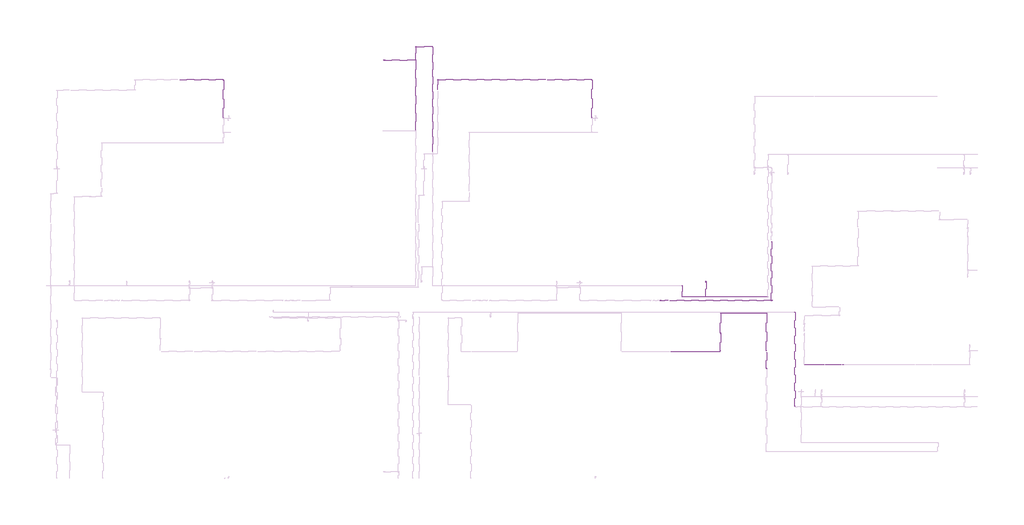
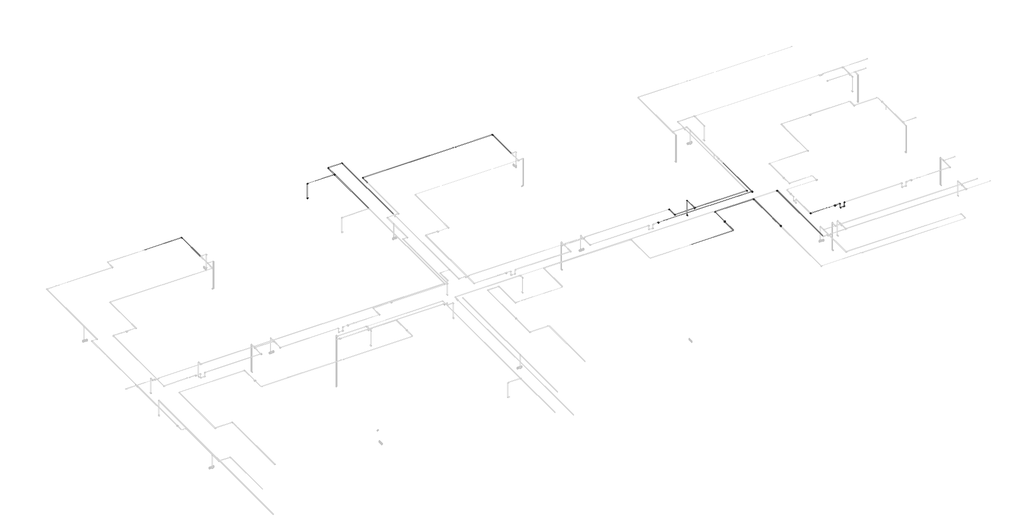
# One storey, part 10 of 13: 36 cable carrier segments, 22 cable carrier fittings, 5 alarms.
"""IFC4 building model written with IfcOpenShell, lengths in millimetres."""

from ifc_helpers import new_model, si_unit, point, frame, frame_2d, origin, place, context, project, spatial, circle_curve, trimmed, segment, composite_curve, outline, extrude, transform, mapped, element, save
from components import alarm_a2247946, cable_carrier_fitting_69f1a801, cable_carrier_fitting_8fd13dfc

model = new_model("IFC4")

# Units and contexts
model_context = context("Model", 3, world=origin())
ifc_project = project(units=[si_unit("LENGTHUNIT", "METRE", prefix="MILLI")], contexts=[model_context])

# Site, building, storey
site = spatial("IfcSite", under=ifc_project)
building = spatial("IfcBuilding", under=site)
storey = spatial("IfcBuildingStorey", under=building, Name="2 этаж", Elevation=3500.0)

# Alarms
placement = place(None, origin())
alarm_shape = alarm_a2247946(model_context)
element("IfcAlarm", 1, ObjectType="RBZ_ИзоляторШлейфа_Рубеж_ИЗ-1_прот.R3(плоскость) : ИЗ-1 прот.R3", at=placement, inside=storey, context=model_context, shape_type="MappedRepresentation", body=[
    mapped(alarm_shape, transform((36.8692806, 5164.6370105, 6997.7), x_axis=(1.0, 0.0, 0.0), y_axis=(0.0, 1.0, 0.0), z_axis=(0.0, 0.0, 1.0))),
])
element("IfcAlarm", 2, ObjectType="RBZ_ИзоляторШлейфа_Рубеж_ИЗ-1_прот.R3(плоскость) : ИЗ-1 прот.R3", at=placement, inside=storey, context=model_context, shape_type="MappedRepresentation", body=[
    mapped(alarm_shape, transform((10217.6759979, 1384.6370105, 6997.7), x_axis=(1.0, 0.0, 0.0), y_axis=(0.0, 1.0, 0.0), z_axis=(0.0, 0.0, 1.0))),
])
element("IfcAlarm", 3, ObjectType="RBZ_ИзоляторШлейфа_Рубеж_ИЗ-1_прот.R3(плоскость) : ИЗ-1 прот.R3", at=placement, inside=storey, context=model_context, shape_type="MappedRepresentation", body=[
    mapped(alarm_shape, transform((3577.6759979, 3230.3870105, 6997.7), x_axis=(1.0, 0.0, 0.0), y_axis=(0.0, 1.0, 0.0), z_axis=(0.0, 0.0, 1.0))),
])
element("IfcAlarm", 4, ObjectType="RBZ_ИзоляторШлейфа_Рубеж_ИЗ-1_прот.R3(плоскость) : ИЗ-1 прот.R3", at=placement, inside=storey, context=model_context, shape_type="MappedRepresentation", body=[
    mapped(alarm_shape, transform((6287.6759979, 1144.6370105, 6997.7), x_axis=(1.0, 0.0, 0.0), y_axis=(0.0, 1.0, 0.0), z_axis=(0.0, 0.0, 1.0))),
])
element("IfcAlarm", 5, ObjectType="RBZ_ИзоляторШлейфа_Рубеж_ИЗ-1_прот.R3(плоскость) : ИЗ-1 прот.R3", at=placement, inside=storey, context=model_context, shape_type="MappedRepresentation", body=[
    mapped(alarm_shape, transform((6587.6759979, 5164.6370105, 6995.4), x_axis=(1.0, 0.0, 0.0), y_axis=(0.0, 1.0, 0.0), z_axis=(0.0, 0.0, 1.0))),
])

# Cable carrier fittings
cable_carrier_fitting_shape = cable_carrier_fitting_69f1a801(model_context)
element("IfcCableCarrierFitting", 6, ObjectType="ADSK_Поворот_Минимальный размер : Неспецифицируемый", at=placement, inside=storey, context=model_context, shape_type="MappedRepresentation", body=[
    mapped(cable_carrier_fitting_shape, transform((-25722.3240021, 18189.6370105, 6986.95), x_axis=(0.0, 1.0, 0.0), y_axis=(-1.0, 0.0, 0.0), z_axis=(0.0, 0.0, 1.0))),
])
element("IfcCableCarrierFitting", 7, ObjectType="ADSK_Поворот_Минимальный размер : Неспецифицируемый", at=placement, inside=storey, context=model_context, shape_type="MappedRepresentation", body=[
    mapped(cable_carrier_fitting_shape, transform((-3999.8077923, 18194.6370105, 6986.95), x_axis=(0.0, 1.0, 0.0), y_axis=(-1.0, 0.0, 0.0), z_axis=(0.0, 0.0, 1.0))),
])
element("IfcCableCarrierFitting", 8, ObjectType="ADSK_Поворот_Минимальный размер : Неспецифицируемый", at=placement, inside=storey, context=model_context, shape_type="MappedRepresentation", body=[
    mapped(cable_carrier_fitting_shape, transform((-13092.3240021, 18194.6370105, 6986.95), x_axis=(-1.0, 0.0, 0.0), y_axis=(0.0, -1.0, 0.0), z_axis=(0.0, 0.0, 1.0))),
])
element("IfcCableCarrierFitting", 9, ObjectType="ADSK_Поворот_Минимальный размер : Неспецифицируемый", at=placement, inside=storey, context=model_context, shape_type="MappedRepresentation", body=[
    mapped(cable_carrier_fitting_shape, transform((6287.6759979, 4424.6370105, 6986.95), x_axis=(0.0, 1.0, 0.0), y_axis=(-1.0, 0.0, 0.0), z_axis=(0.0, 0.0, 1.0))),
])
element("IfcCableCarrierFitting", 10, ObjectType="ADSK_Поворот_Минимальный размер : Неспецифицируемый", at=placement, inside=storey, context=model_context, shape_type="MappedRepresentation", body=[
    mapped(cable_carrier_fitting_shape, transform((10861.3758035, 1384.6370105, 6691.5753772), x_axis=(1.0, 0.0, 0.0), y_axis=(0.0, 0.0, 1.0), z_axis=(0.0, -1.0, 0.0))),
])
element("IfcCableCarrierFitting", 11, ObjectType="ADSK_Поворот_Минимальный размер : Неспецифицируемый", at=placement, inside=storey, context=model_context, shape_type="MappedRepresentation", body=[
    mapped(cable_carrier_fitting_shape, transform((10861.3758035, 1384.6370105, 6990.0), x_axis=(0.0, 0.0, 1.0), y_axis=(1.0, 0.0, 0.0), z_axis=(0.0, 1.0, 0.0))),
])
element("IfcCableCarrierFitting", 12, ObjectType="ADSK_Поворот_Минимальный размер : Неспецифицируемый", at=placement, inside=storey, context=model_context, shape_type="MappedRepresentation", body=[
    mapped(cable_carrier_fitting_shape, transform((10573.9761923, 1384.6370105, 6691.5753772), x_axis=(-1.0, 0.0, 0.0), y_axis=(0.0, 0.0, 1.0), z_axis=(0.0, 1.0, 0.0))),
])
element("IfcCableCarrierFitting", 13, ObjectType="ADSK_Поворот_Минимальный размер : Неспецифицируемый", at=placement, inside=storey, context=model_context, shape_type="MappedRepresentation", body=[
    mapped(cable_carrier_fitting_shape, transform((10573.9761923, 1384.6370105, 6986.95), x_axis=(0.0, 0.0, 1.0), y_axis=(-1.0, 0.0, 0.0), z_axis=(0.0, -1.0, 0.0))),
])
element("IfcCableCarrierFitting", 14, ObjectType="ADSK_Поворот_Минимальный размер : Неспецифицируемый", at=placement, inside=storey, context=model_context, shape_type="MappedRepresentation", body=[
    mapped(cable_carrier_fitting_shape, transform((8507.6759979, 1384.6370105, 6986.95), x_axis=(0.0, -1.0, 0.0), y_axis=(1.0, 0.0, 0.0), z_axis=(0.0, 0.0, 1.0))),
])
element("IfcCableCarrierFitting", 15, ObjectType="ADSK_Поворот_Минимальный размер : Неспецифицируемый", at=placement, inside=storey, context=model_context, shape_type="MappedRepresentation", body=[
    mapped(cable_carrier_fitting_shape, transform((3577.6759979, 4424.6370105, 6986.95), x_axis=(-1.0, 0.0, 0.0), y_axis=(0.0, -1.0, 0.0), z_axis=(0.0, 0.0, 1.0))),
])
element("IfcCableCarrierFitting", 16, ObjectType="ADSK_Поворот_Минимальный размер : Неспецифицируемый", at=placement, inside=storey, context=model_context, shape_type="MappedRepresentation", body=[
    mapped(cable_carrier_fitting_shape, transform((-14382.3240021, 20139.6370105, 6990.0), x_axis=(-1.0, 0.0, 0.0), y_axis=(0.0, -1.0, 0.0), z_axis=(0.0, 0.0, 1.0))),
])
element("IfcCableCarrierFitting", 17, ObjectType="ADSK_Поворот_Минимальный размер : Неспецифицируемый", at=placement, inside=storey, context=model_context, shape_type="MappedRepresentation", body=[
    mapped(cable_carrier_fitting_shape, transform((1317.6759979, 5381.6519004, 6990.0), x_axis=(0.0, -1.0, 0.0), y_axis=(1.0, 0.0, 0.0), z_axis=(0.0, 0.0, 1.0))),
])
element("IfcCableCarrierFitting", 18, ObjectType="ADSK_Поворот_Минимальный размер : Неспецифицируемый", at=placement, inside=storey, context=model_context, shape_type="MappedRepresentation", body=[
    mapped(cable_carrier_fitting_shape, transform((7960.1759979, 4481.6519004, 6990.0), x_axis=(0.0, 1.0, 0.0), y_axis=(-1.0, 0.0, 0.0), z_axis=(0.0, 0.0, 1.0))),
])
element("IfcCableCarrierFitting", 19, ObjectType="ADSK_Поворот_Минимальный размер : Неспецифицируемый", at=placement, inside=storey, context=model_context, shape_type="MappedRepresentation", body=[
    mapped(cable_carrier_fitting_shape, transform((-16289.5238077, 19339.6370105, 5897.4861504), x_axis=(-1.0, 0.0, 0.0), y_axis=(0.0, 0.0, 1.0), z_axis=(0.0, 1.0, 0.0))),
])
element("IfcCableCarrierFitting", 20, ObjectType="ADSK_Поворот_Минимальный размер : Неспецифицируемый", at=placement, inside=storey, context=model_context, shape_type="MappedRepresentation", body=[
    mapped(cable_carrier_fitting_shape, transform((-16289.5238077, 19339.6370105, 6990.0), x_axis=(0.0, 0.0, 1.0), y_axis=(1.0, 0.0, 0.0), z_axis=(0.0, 1.0, 0.0))),
])
element("IfcCableCarrierFitting", 21, ObjectType="ADSK_Поворот_Минимальный размер : Неспецифицируемый", at=placement, inside=storey, context=model_context, shape_type="MappedRepresentation", body=[
    mapped(cable_carrier_fitting_shape, transform((2727.6759979, 6321.8368161, 5897.4861504), x_axis=(0.0, 1.0, 0.0), y_axis=(0.0, 0.0, 1.0), z_axis=(1.0, 0.0, 0.0))),
])
element("IfcCableCarrierFitting", 22, ObjectType="ADSK_Поворот_Минимальный размер : Неспецифицируемый", at=placement, inside=storey, context=model_context, shape_type="MappedRepresentation", body=[
    mapped(cable_carrier_fitting_shape, transform((2727.6759979, 6321.8368161, 6990.0), x_axis=(0.0, 0.0, 1.0), y_axis=(0.0, -1.0, 0.0), z_axis=(1.0, 0.0, 0.0))),
])
element("IfcCableCarrierFitting", 23, ObjectType="ADSK_Поворот_Минимальный размер : Неспецифицируемый", at=placement, inside=storey, context=model_context, shape_type="MappedRepresentation", body=[
    mapped(cable_carrier_fitting_shape, transform((6382.6759979, 5381.6519004, 6990.0), x_axis=(1.0, 0.0, 0.0), y_axis=(0.0, 1.0, 0.0), z_axis=(0.0, 0.0, 1.0))),
])
element("IfcCableCarrierFitting", 24, ObjectType="ADSK_Поворот_Минимальный размер : Неспецифицируемый", at=placement, inside=storey, context=model_context, shape_type="MappedRepresentation", body=[
    mapped(cable_carrier_fitting_shape, transform((1317.6759979, 6037.6221207, 6990.0), x_axis=(0.0, 1.0, 0.0), y_axis=(-1.0, 0.0, 0.0), z_axis=(0.0, 0.0, 1.0))),
])
element("IfcCableCarrierFitting", 25, ObjectType="ADSK_Поворот_Минимальный размер : Неспецифицируемый", at=placement, inside=storey, context=model_context, shape_type="MappedRepresentation", body=[
    mapped(cable_carrier_fitting_shape, transform((-13382.3240021, 20139.6370105, 6990.0), x_axis=(0.0, 1.0, 0.0), y_axis=(-1.0, 0.0, 0.0), z_axis=(0.0, 0.0, 1.0))),
])
cable_carrier_fitting_2_shape = cable_carrier_fitting_8fd13dfc(model_context)
element("IfcCableCarrierFitting", 26, ObjectType="ADSK_Тройник : ПВХ", at=placement, inside=storey, context=model_context, shape_type="MappedRepresentation", body=[
    mapped(cable_carrier_fitting_2_shape, transform((-14382.3240021, 19339.6370105, 6990.0), x_axis=(0.0, -1.0, 0.0), y_axis=(1.0, 0.0, 0.0), z_axis=(0.0, 0.0, 1.0))),
])
element("IfcCableCarrierFitting", 27, ObjectType="ADSK_Тройник : ПВХ", at=placement, inside=storey, context=model_context, shape_type="MappedRepresentation", body=[
    mapped(cable_carrier_fitting_2_shape, transform((2727.6759979, 5381.6519004, 6990.0), x_axis=(-1.0, 0.0, 0.0), y_axis=(0.0, -1.0, 0.0), z_axis=(0.0, 0.0, 1.0))),
])

# Cable carrier segments
element("IfcCableCarrierSegment", 28, ObjectType="Гофрированная труба", at=placement, inside=storey, context=model_context, shape_type="SweptSolid", body=[
    extrude(outline(composite_curve([segment(trimmed(circle_curve(frame_2d((18189.6370105, 6986.95)), 10.0), [point((18199.6370105, 6986.95))], [point((18189.6370105, 6976.95))], False, "CARTESIAN"), True, "CONTINUOUS"), segment(trimmed(circle_curve(frame_2d((18189.6370105, 6986.95)), 10.0), [point((18189.6370105, 6976.95))], [point((18179.6370105, 6986.95))], False, "CARTESIAN"), True, "CONTINUOUS"), segment(trimmed(circle_curve(frame_2d((18189.6370105, 6986.95)), 10.0), [point((18179.6370105, 6986.95))], [point((18189.6370105, 6996.95))], False, "CARTESIAN"), True, "CONTINUOUS"), segment(trimmed(circle_curve(frame_2d((18189.6370105, 6986.95)), 10.0), [point((18189.6370105, 6996.95))], [point((18199.6370105, 6986.95))], False, "CARTESIAN"), True, "CONTINUOUS")], self_intersect=False)), frame((-28305.8240021, 0.0, 0.0), z_axis=(1.0, 0.0, 0.0), x_axis=(0.0, 1.0, 0.0)), (0.0, 0.0, 1.0), 2562.5),
])
element("IfcCableCarrierSegment", 29, ObjectType="Гофрированная труба", at=placement, inside=storey, context=model_context, shape_type="SweptSolid", body=[
    extrude(outline(composite_curve([segment(trimmed(circle_curve(frame_2d((6986.95, -25722.3240021)), 10.0), [point((6986.95, -25732.3240021))], [point((6976.95, -25722.3240021))], False, "CARTESIAN"), True, "CONTINUOUS"), segment(trimmed(circle_curve(frame_2d((6986.95, -25722.3240021)), 10.0), [point((6976.95, -25722.3240021))], [point((6986.95, -25712.3240021))], False, "CARTESIAN"), True, "CONTINUOUS"), segment(trimmed(circle_curve(frame_2d((6986.95, -25722.3240021)), 10.0), [point((6986.95, -25712.3240021))], [point((6996.95, -25722.3240021))], False, "CARTESIAN"), True, "CONTINUOUS"), segment(trimmed(circle_curve(frame_2d((6986.95, -25722.3240021)), 10.0), [point((6996.95, -25722.3240021))], [point((6986.95, -25732.3240021))], False, "CARTESIAN"), True, "CONTINUOUS")], self_intersect=False)), frame((0.0, 15947.1370105, 0.0), z_axis=(0.0, 1.0, 0.0), x_axis=(0.0, 0.0, 1.0)), (0.0, 0.0, 1.0), 2221.5),
])
element("IfcCableCarrierSegment", 30, ObjectType="Гофрированная труба", at=placement, inside=storey, context=model_context, shape_type="SweptSolid", body=[
    extrude(outline(composite_curve([segment(trimmed(circle_curve(frame_2d((6986.95, -3999.8077923)), 10.0), [point((6986.95, -3989.8077923))], [point((6996.95, -3999.8077923))], False, "CARTESIAN"), True, "CONTINUOUS"), segment(trimmed(circle_curve(frame_2d((6986.95, -3999.8077923)), 10.0), [point((6996.95, -3999.8077923))], [point((6986.95, -4009.8077923))], False, "CARTESIAN"), True, "CONTINUOUS"), segment(trimmed(circle_curve(frame_2d((6986.95, -3999.8077923)), 10.0), [point((6986.95, -4009.8077923))], [point((6976.95, -3999.8077923))], False, "CARTESIAN"), True, "CONTINUOUS"), segment(trimmed(circle_curve(frame_2d((6986.95, -3999.8077923)), 10.0), [point((6976.95, -3999.8077923))], [point((6986.95, -3989.8077923))], False, "CARTESIAN"), True, "CONTINUOUS")], self_intersect=False)), frame((0.0, 15952.1370105, 0.0), z_axis=(0.0, 1.0, 0.0), x_axis=(0.0, 0.0, 1.0)), (0.0, 0.0, 1.0), 2221.5),
])
element("IfcCableCarrierSegment", 31, ObjectType="Гофрированная труба", at=placement, inside=storey, context=model_context, shape_type="SweptSolid", body=[
    extrude(outline(composite_curve([segment(trimmed(circle_curve(frame_2d((18194.6370105, 6986.95)), 10.0), [point((18204.6370105, 6986.95))], [point((18194.6370105, 6976.95))], False, "CARTESIAN"), True, "CONTINUOUS"), segment(trimmed(circle_curve(frame_2d((18194.6370105, 6986.95)), 10.0), [point((18194.6370105, 6976.95))], [point((18184.6370105, 6986.95))], False, "CARTESIAN"), True, "CONTINUOUS"), segment(trimmed(circle_curve(frame_2d((18194.6370105, 6986.95)), 10.0), [point((18184.6370105, 6986.95))], [point((18194.6370105, 6996.95))], False, "CARTESIAN"), True, "CONTINUOUS"), segment(trimmed(circle_curve(frame_2d((18194.6370105, 6986.95)), 10.0), [point((18194.6370105, 6996.95))], [point((18204.6370105, 6986.95))], False, "CARTESIAN"), True, "CONTINUOUS")], self_intersect=False)), frame((-6625.8240021, 0.0, 0.0), z_axis=(1.0, 0.0, 0.0), x_axis=(0.0, 1.0, 0.0)), (0.0, 0.0, 1.0), 2605.0162098),
])
element("IfcCableCarrierSegment", 32, ObjectType="Гофрированная труба", at=placement, inside=storey, context=model_context, shape_type="SweptSolid", body=[
    extrude(outline(composite_curve([segment(trimmed(circle_curve(frame_2d((18194.6370105, 6986.95)), 10.0), [point((18184.6370105, 6986.95))], [point((18194.6370105, 6996.95))], False, "CARTESIAN"), True, "CONTINUOUS"), segment(trimmed(circle_curve(frame_2d((18194.6370105, 6986.95)), 10.0), [point((18194.6370105, 6996.95))], [point((18204.6370105, 6986.95))], False, "CARTESIAN"), True, "CONTINUOUS"), segment(trimmed(circle_curve(frame_2d((18194.6370105, 6986.95)), 10.0), [point((18204.6370105, 6986.95))], [point((18194.6370105, 6976.95))], False, "CARTESIAN"), True, "CONTINUOUS"), segment(trimmed(circle_curve(frame_2d((18194.6370105, 6986.95)), 10.0), [point((18194.6370105, 6976.95))], [point((18184.6370105, 6986.95))], False, "CARTESIAN"), True, "CONTINUOUS")], self_intersect=False)), frame((-13071.3240021, 0.0, 0.0), z_axis=(1.0, 0.0, 0.0), x_axis=(0.0, 1.0, 0.0)), (0.0, 0.0, 1.0), 6352.5),
])
element("IfcCableCarrierSegment", 33, ObjectType="Гофрированная труба", at=placement, inside=storey, context=model_context, shape_type="SweptSolid", body=[
    extrude(outline(composite_curve([segment(trimmed(circle_curve(frame_2d((6986.95, -13092.3240021)), 10.0), [point((6986.95, -13082.3240021))], [point((6996.95, -13092.3240021))], False, "CARTESIAN"), True, "CONTINUOUS"), segment(trimmed(circle_curve(frame_2d((6986.95, -13092.3240021)), 10.0), [point((6996.95, -13092.3240021))], [point((6986.95, -13102.3240021))], False, "CARTESIAN"), True, "CONTINUOUS"), segment(trimmed(circle_curve(frame_2d((6986.95, -13092.3240021)), 10.0), [point((6986.95, -13102.3240021))], [point((6976.95, -13092.3240021))], False, "CARTESIAN"), True, "CONTINUOUS"), segment(trimmed(circle_curve(frame_2d((6986.95, -13092.3240021)), 10.0), [point((6976.95, -13092.3240021))], [point((6986.95, -13082.3240021))], False, "CARTESIAN"), True, "CONTINUOUS")], self_intersect=False)), frame((0.0, 17616.1370105, 0.0), z_axis=(0.0, 1.0, 0.0), x_axis=(0.0, 0.0, 1.0)), (0.0, 0.0, 1.0), 557.5),
])
element("IfcCableCarrierSegment", 34, ObjectType="Гофрированная труба", at=placement, inside=storey, context=model_context, shape_type="SweptSolid", body=[
    extrude(outline(composite_curve([segment(trimmed(circle_curve(frame_2d((2144.6370105, 6986.95)), 10.0), [point((2154.6370105, 6986.95))], [point((2144.6370105, 6976.95))], False, "CARTESIAN"), True, "CONTINUOUS"), segment(trimmed(circle_curve(frame_2d((2144.6370105, 6986.95)), 10.0), [point((2144.6370105, 6976.95))], [point((2134.6370105, 6986.95))], False, "CARTESIAN"), True, "CONTINUOUS"), segment(trimmed(circle_curve(frame_2d((2144.6370105, 6986.95)), 10.0), [point((2134.6370105, 6986.95))], [point((2144.6370105, 6996.95))], False, "CARTESIAN"), True, "CONTINUOUS"), segment(trimmed(circle_curve(frame_2d((2144.6370105, 6986.95)), 10.0), [point((2144.6370105, 6996.95))], [point((2154.6370105, 6986.95))], False, "CARTESIAN"), True, "CONTINUOUS")], self_intersect=False)), frame((649.1759979, 0.0, 0.0), z_axis=(1.0, 0.0, 0.0), x_axis=(0.0, 1.0, 0.0)), (0.0, 0.0, 1.0), 2882.0),
])
element("IfcCableCarrierSegment", 35, ObjectType="Гофрированная труба", at=placement, inside=storey, context=model_context, shape_type="SweptSolid", body=[
    extrude(outline(composite_curve([segment(trimmed(circle_curve(frame_2d((6986.95, 3577.6759979)), 10.0), [point((6986.95, 3567.6759979))], [point((6976.95, 3577.6759979))], False, "CARTESIAN"), True, "CONTINUOUS"), segment(trimmed(circle_curve(frame_2d((6986.95, 3577.6759979)), 10.0), [point((6976.95, 3577.6759979))], [point((6986.95, 3587.6759979))], False, "CARTESIAN"), True, "CONTINUOUS"), segment(trimmed(circle_curve(frame_2d((6986.95, 3577.6759979)), 10.0), [point((6986.95, 3587.6759979))], [point((6996.95, 3577.6759979))], False, "CARTESIAN"), True, "CONTINUOUS"), segment(trimmed(circle_curve(frame_2d((6986.95, 3577.6759979)), 10.0), [point((6996.95, 3577.6759979))], [point((6986.95, 3567.6759979))], False, "CARTESIAN"), True, "CONTINUOUS")], self_intersect=False)), frame((0.0, 3256.3870105, 0.0), z_axis=(0.0, 1.0, 0.0), x_axis=(0.0, 0.0, 1.0)), (0.0, 0.0, 1.0), 1147.25),
])
element("IfcCableCarrierSegment", 36, ObjectType="Гофрированная труба", at=placement, inside=storey, context=model_context, shape_type="SweptSolid", body=[
    extrude(outline(composite_curve([segment(trimmed(circle_curve(frame_2d((6986.95, 6287.6759979)), 10.0), [point((6986.95, 6297.6759979))], [point((6996.95, 6287.6759979))], False, "CARTESIAN"), True, "CONTINUOUS"), segment(trimmed(circle_curve(frame_2d((6986.95, 6287.6759979)), 10.0), [point((6996.95, 6287.6759979))], [point((6986.95, 6277.6759979))], False, "CARTESIAN"), True, "CONTINUOUS"), segment(trimmed(circle_curve(frame_2d((6986.95, 6287.6759979)), 10.0), [point((6986.95, 6277.6759979))], [point((6976.95, 6287.6759979))], False, "CARTESIAN"), True, "CONTINUOUS"), segment(trimmed(circle_curve(frame_2d((6986.95, 6287.6759979)), 10.0), [point((6976.95, 6287.6759979))], [point((6986.95, 6297.6759979))], False, "CARTESIAN"), True, "CONTINUOUS")], self_intersect=False)), frame((0.0, 2191.1370105, 0.0), z_axis=(0.0, 1.0, 0.0), x_axis=(0.0, 0.0, 1.0)), (0.0, 0.0, 1.0), 2212.5),
])
element("IfcCableCarrierSegment", 37, ObjectType="Гофрированная труба", at=placement, inside=storey, context=model_context, shape_type="SweptSolid", body=[
    extrude(outline(composite_curve([segment(trimmed(circle_curve(frame_2d((4424.6370105, 6986.95)), 10.0), [point((4414.6370105, 6986.95))], [point((4424.6370105, 6996.95))], False, "CARTESIAN"), True, "CONTINUOUS"), segment(trimmed(circle_curve(frame_2d((4424.6370105, 6986.95)), 10.0), [point((4424.6370105, 6996.95))], [point((4434.6370105, 6986.95))], False, "CARTESIAN"), True, "CONTINUOUS"), segment(trimmed(circle_curve(frame_2d((4424.6370105, 6986.95)), 10.0), [point((4434.6370105, 6986.95))], [point((4424.6370105, 6976.95))], False, "CARTESIAN"), True, "CONTINUOUS"), segment(trimmed(circle_curve(frame_2d((4424.6370105, 6986.95)), 10.0), [point((4424.6370105, 6976.95))], [point((4414.6370105, 6986.95))], False, "CARTESIAN"), True, "CONTINUOUS")], self_intersect=False)), frame((3598.6759979, 0.0, 0.0), z_axis=(1.0, 0.0, 0.0), x_axis=(0.0, 1.0, 0.0)), (0.0, 0.0, 1.0), 2668.0),
])
element("IfcCableCarrierSegment", 38, ObjectType="Гофрированная труба", at=placement, inside=storey, context=model_context, shape_type="SweptSolid", body=[
    extrude(outline(composite_curve([segment(trimmed(circle_curve(frame_2d((5164.6370105, 6986.95)), 10.0), [point((5174.6370105, 6986.95))], [point((5164.6370105, 6976.95))], False, "CARTESIAN"), True, "CONTINUOUS"), segment(trimmed(circle_curve(frame_2d((5164.6370105, 6986.95)), 10.0), [point((5164.6370105, 6976.95))], [point((5154.6370105, 6986.95))], False, "CARTESIAN"), True, "CONTINUOUS"), segment(trimmed(circle_curve(frame_2d((5164.6370105, 6986.95)), 10.0), [point((5154.6370105, 6986.95))], [point((5164.6370105, 6996.95))], False, "CARTESIAN"), True, "CONTINUOUS"), segment(trimmed(circle_curve(frame_2d((5164.6370105, 6986.95)), 10.0), [point((5164.6370105, 6996.95))], [point((5174.6370105, 6986.95))], False, "CARTESIAN"), True, "CONTINUOUS")], self_intersect=False)), frame((62.8692806, 0.0, 0.0), z_axis=(1.0, 0.0, 0.0), x_axis=(0.0, 1.0, 0.0)), (0.0, 0.0, 1.0), 426.8675652),
])
element("IfcCableCarrierSegment", 39, ObjectType="Гофрированная труба", at=placement, inside=storey, context=model_context, shape_type="SweptSolid", body=[
    extrude(outline(composite_curve([segment(trimmed(circle_curve(frame_2d((0.0, -10.0)), 10.0), [point((-10.0, -10.0))], [point((0.0, 0.0))], False, "CARTESIAN"), True, "CONTINUOUS"), segment(trimmed(circle_curve(frame_2d((0.0, -10.0)), 10.0), [point((0.0, 0.0))], [point((10.0, -10.0))], False, "CARTESIAN"), True, "CONTINUOUS"), segment(trimmed(circle_curve(frame_2d((0.0, -10.0)), 10.0), [point((10.0, -10.0))], [point((0.0, -20.0000001))], False, "CARTESIAN"), True, "CONTINUOUS"), segment(trimmed(circle_curve(frame_2d((0.0, -10.0)), 10.0), [point((0.0, -20.0000001))], [point((-10.0, -10.0))], False, "CARTESIAN"), True, "CONTINUOUS")], self_intersect=False)), frame((6561.6721511, 5164.6370105, 6974.6500007), z_axis=(-0.9999999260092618, 0.0, 0.000384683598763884), x_axis=(0.0, 1.0, 0.0)), (0.0, 0.0, 1.0), 5978.9395945),
])
element("IfcCableCarrierSegment", 40, ObjectType="Гофрированная труба", at=placement, inside=storey, context=model_context, shape_type="SweptSolid", body=[
    extrude(outline(composite_curve([segment(trimmed(circle_curve(frame_2d((1384.6370105, 6691.5753772)), 10.0), [point((1374.6370105, 6691.5753772))], [point((1384.6370105, 6701.5753772))], False, "CARTESIAN"), True, "CONTINUOUS"), segment(trimmed(circle_curve(frame_2d((1384.6370105, 6691.5753772)), 10.0), [point((1384.6370105, 6701.5753772))], [point((1394.6370105, 6691.5753772))], False, "CARTESIAN"), True, "CONTINUOUS"), segment(trimmed(circle_curve(frame_2d((1384.6370105, 6691.5753772)), 10.0), [point((1394.6370105, 6691.5753772))], [point((1384.6370105, 6681.5753772))], False, "CARTESIAN"), True, "CONTINUOUS"), segment(trimmed(circle_curve(frame_2d((1384.6370105, 6691.5753772)), 10.0), [point((1384.6370105, 6681.5753772))], [point((1374.6370105, 6691.5753772))], False, "CARTESIAN"), True, "CONTINUOUS")], self_intersect=False)), frame((10764.1759979, 0.0, 0.0), z_axis=(1.0, 0.0, 0.0), x_axis=(0.0, 1.0, 0.0)), (0.0, 0.0, 1.0), 76.1998056),
])
element("IfcCableCarrierSegment", 41, ObjectType="Гофрированная труба", at=placement, inside=storey, context=model_context, shape_type="SweptSolid", body=[
    extrude(outline(composite_curve([segment(trimmed(circle_curve(frame_2d((10861.3758035, 1384.6370105)), 10.0), [point((10851.3758035, 1384.6370105))], [point((10861.3758035, 1394.6370105))], False, "CARTESIAN"), True, "CONTINUOUS"), segment(trimmed(circle_curve(frame_2d((10861.3758035, 1384.6370105)), 10.0), [point((10861.3758035, 1394.6370105))], [point((10871.3758035, 1384.6370105))], False, "CARTESIAN"), True, "CONTINUOUS"), segment(trimmed(circle_curve(frame_2d((10861.3758035, 1384.6370105)), 10.0), [point((10871.3758035, 1384.6370105))], [point((10861.3758035, 1374.6370105))], False, "CARTESIAN"), True, "CONTINUOUS"), segment(trimmed(circle_curve(frame_2d((10861.3758035, 1384.6370105)), 10.0), [point((10861.3758035, 1374.6370105))], [point((10851.3758035, 1384.6370105))], False, "CARTESIAN"), True, "CONTINUOUS")], self_intersect=False)), frame((0.0, 0.0, 6712.5753772), z_axis=(0.0, 0.0, 1.0), x_axis=(1.0, 0.0, 0.0)), (0.0, 0.0, 1.0), 256.4246228),
])
element("IfcCableCarrierSegment", 42, ObjectType="Гофрированная труба", at=placement, inside=storey, context=model_context, shape_type="SweptSolid", body=[
    extrude(outline(composite_curve([segment(trimmed(circle_curve(frame_2d((1384.6370105, 6986.95)), 10.0), [point((1374.6370105, 6986.95))], [point((1384.6370105, 6996.95))], False, "CARTESIAN"), True, "CONTINUOUS"), segment(trimmed(circle_curve(frame_2d((1384.6370105, 6986.95)), 10.0), [point((1384.6370105, 6996.95))], [point((1394.6370105, 6986.95))], False, "CARTESIAN"), True, "CONTINUOUS"), segment(trimmed(circle_curve(frame_2d((1384.6370105, 6986.95)), 10.0), [point((1394.6370105, 6986.95))], [point((1384.6370105, 6976.95))], False, "CARTESIAN"), True, "CONTINUOUS"), segment(trimmed(circle_curve(frame_2d((1384.6370105, 6986.95)), 10.0), [point((1384.6370105, 6976.95))], [point((1374.6370105, 6986.95))], False, "CARTESIAN"), True, "CONTINUOUS")], self_intersect=False)), frame((10243.6759979, 0.0, 0.0), z_axis=(1.0, 0.0, 0.0), x_axis=(0.0, 1.0, 0.0)), (0.0, 0.0, 1.0), 309.3001944),
])
element("IfcCableCarrierSegment", 43, ObjectType="Гофрированная труба", at=placement, inside=storey, context=model_context, shape_type="SweptSolid", body=[
    extrude(outline(composite_curve([segment(trimmed(circle_curve(frame_2d((1384.6370105, 6691.5753772)), 10.0), [point((1394.6370105, 6691.5753772))], [point((1384.6370105, 6681.5753772))], False, "CARTESIAN"), True, "CONTINUOUS"), segment(trimmed(circle_curve(frame_2d((1384.6370105, 6691.5753772)), 10.0), [point((1384.6370105, 6681.5753772))], [point((1374.6370105, 6691.5753772))], False, "CARTESIAN"), True, "CONTINUOUS"), segment(trimmed(circle_curve(frame_2d((1384.6370105, 6691.5753772)), 10.0), [point((1374.6370105, 6691.5753772))], [point((1384.6370105, 6701.5753772))], False, "CARTESIAN"), True, "CONTINUOUS"), segment(trimmed(circle_curve(frame_2d((1384.6370105, 6691.5753772)), 10.0), [point((1384.6370105, 6701.5753772))], [point((1394.6370105, 6691.5753772))], False, "CARTESIAN"), True, "CONTINUOUS")], self_intersect=False)), frame((10594.9761923, 0.0, 0.0), z_axis=(1.0, 0.0, 0.0), x_axis=(0.0, 1.0, 0.0)), (0.0, 0.0, 1.0), 76.1998056),
])
element("IfcCableCarrierSegment", 44, ObjectType="Гофрированная труба", at=placement, inside=storey, context=model_context, shape_type="SweptSolid", body=[
    extrude(outline(composite_curve([segment(trimmed(circle_curve(frame_2d((10573.9761923, 1384.6370105)), 10.0), [point((10563.9761923, 1384.6370105))], [point((10573.9761923, 1394.6370105))], False, "CARTESIAN"), True, "CONTINUOUS"), segment(trimmed(circle_curve(frame_2d((10573.9761923, 1384.6370105)), 10.0), [point((10573.9761923, 1394.6370105))], [point((10583.9761923, 1384.6370105))], False, "CARTESIAN"), True, "CONTINUOUS"), segment(trimmed(circle_curve(frame_2d((10573.9761923, 1384.6370105)), 10.0), [point((10583.9761923, 1384.6370105))], [point((10573.9761923, 1374.6370105))], False, "CARTESIAN"), True, "CONTINUOUS"), segment(trimmed(circle_curve(frame_2d((10573.9761923, 1384.6370105)), 10.0), [point((10573.9761923, 1374.6370105))], [point((10563.9761923, 1384.6370105))], False, "CARTESIAN"), True, "CONTINUOUS")], self_intersect=False)), frame((0.0, 0.0, 6712.5753772), z_axis=(0.0, 0.0, 1.0), x_axis=(1.0, 0.0, 0.0)), (0.0, 0.0, 1.0), 253.3746228),
])
element("IfcCableCarrierSegment", 45, ObjectType="Гофрированная труба", at=placement, inside=storey, context=model_context, shape_type="SweptSolid", body=[
    extrude(outline(composite_curve([segment(trimmed(circle_curve(frame_2d((1384.6370105, 6986.95)), 10.0), [point((1374.6370105, 6986.95))], [point((1384.6370105, 6996.95))], False, "CARTESIAN"), True, "CONTINUOUS"), segment(trimmed(circle_curve(frame_2d((1384.6370105, 6986.95)), 10.0), [point((1384.6370105, 6996.95))], [point((1394.6370105, 6986.95))], False, "CARTESIAN"), True, "CONTINUOUS"), segment(trimmed(circle_curve(frame_2d((1384.6370105, 6986.95)), 10.0), [point((1394.6370105, 6986.95))], [point((1384.6370105, 6976.95))], False, "CARTESIAN"), True, "CONTINUOUS"), segment(trimmed(circle_curve(frame_2d((1384.6370105, 6986.95)), 10.0), [point((1384.6370105, 6976.95))], [point((1374.6370105, 6986.95))], False, "CARTESIAN"), True, "CONTINUOUS")], self_intersect=False)), frame((9764.1759979, 0.0, 0.0), z_axis=(1.0, 0.0, 0.0), x_axis=(0.0, 1.0, 0.0)), (0.0, 0.0, 1.0), 427.5),
])
element("IfcCableCarrierSegment", 46, ObjectType="Гофрированная труба", at=placement, inside=storey, context=model_context, shape_type="SweptSolid", body=[
    extrude(outline(composite_curve([segment(trimmed(circle_curve(frame_2d((1384.6370105, 6986.95)), 10.0), [point((1394.6370105, 6986.95))], [point((1384.6370105, 6976.95))], False, "CARTESIAN"), True, "CONTINUOUS"), segment(trimmed(circle_curve(frame_2d((1384.6370105, 6986.95)), 10.0), [point((1384.6370105, 6976.95))], [point((1374.6370105, 6986.95))], False, "CARTESIAN"), True, "CONTINUOUS"), segment(trimmed(circle_curve(frame_2d((1384.6370105, 6986.95)), 10.0), [point((1374.6370105, 6986.95))], [point((1384.6370105, 6996.95))], False, "CARTESIAN"), True, "CONTINUOUS"), segment(trimmed(circle_curve(frame_2d((1384.6370105, 6986.95)), 10.0), [point((1384.6370105, 6996.95))], [point((1394.6370105, 6986.95))], False, "CARTESIAN"), True, "CONTINUOUS")], self_intersect=False)), frame((8528.6759979, 0.0, 0.0), z_axis=(1.0, 0.0, 0.0), x_axis=(0.0, 1.0, 0.0)), (0.0, 0.0, 1.0), 1142.5),
])
element("IfcCableCarrierSegment", 47, ObjectType="Гофрированная труба", at=placement, inside=storey, context=model_context, shape_type="SweptSolid", body=[
    extrude(outline(composite_curve([segment(trimmed(circle_curve(frame_2d((0.0, -10.0)), 10.0), [point((0.0, 0.0))], [point((10.0, -10.0))], False, "CARTESIAN"), True, "CONTINUOUS"), segment(trimmed(circle_curve(frame_2d((0.0, -10.0)), 10.0), [point((10.0, -10.0))], [point((0.0, -20.0))], False, "CARTESIAN"), True, "CONTINUOUS"), segment(trimmed(circle_curve(frame_2d((0.0, -10.0)), 10.0), [point((0.0, -20.0))], [point((-10.0, -10.0))], False, "CARTESIAN"), True, "CONTINUOUS"), segment(trimmed(circle_curve(frame_2d((0.0, -10.0)), 10.0), [point((-10.0, -10.0))], [point((0.0, 0.0))], False, "CARTESIAN"), True, "CONTINUOUS")], self_intersect=False)), frame((6577.6759979, 5190.6370105, 6984.65), z_axis=(0.0, 0.9999997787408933, 0.0006652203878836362), x_axis=(0.0, 0.0006652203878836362, -0.9999997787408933)), (0.0, 0.0, 1.0), 3457.500765),
])
element("IfcCableCarrierSegment", 48, ObjectType="Гофрированная труба", at=placement, inside=storey, context=model_context, shape_type="SweptSolid", body=[
    extrude(outline(composite_curve([segment(trimmed(circle_curve(frame_2d((6986.95, 3577.6759979)), 10.0), [point((6986.95, 3587.6759979))], [point((6996.95, 3577.6759979))], False, "CARTESIAN"), True, "CONTINUOUS"), segment(trimmed(circle_curve(frame_2d((6986.95, 3577.6759979)), 10.0), [point((6996.95, 3577.6759979))], [point((6986.95, 3567.6759979))], False, "CARTESIAN"), True, "CONTINUOUS"), segment(trimmed(circle_curve(frame_2d((6986.95, 3577.6759979)), 10.0), [point((6986.95, 3567.6759979))], [point((6976.95, 3577.6759979))], False, "CARTESIAN"), True, "CONTINUOUS"), segment(trimmed(circle_curve(frame_2d((6986.95, 3577.6759979)), 10.0), [point((6976.95, 3577.6759979))], [point((6986.95, 3587.6759979))], False, "CARTESIAN"), True, "CONTINUOUS")], self_intersect=False)), frame((0.0, 2191.1370105, 0.0), z_axis=(0.0, 1.0, 0.0), x_axis=(0.0, 0.0, 1.0)), (0.0, 0.0, 1.0), 1013.25),
])
element("IfcCableCarrierSegment", 49, ObjectType="Гофрированная труба", at=placement, inside=storey, context=model_context, shape_type="SweptSolid", body=[
    extrude(outline(composite_curve([segment(trimmed(circle_curve(frame_2d((6986.95, 6287.6759979)), 10.0), [point((6986.95, 6277.6759979))], [point((6976.95, 6287.6759979))], False, "CARTESIAN"), True, "CONTINUOUS"), segment(trimmed(circle_curve(frame_2d((6986.95, 6287.6759979)), 10.0), [point((6976.95, 6287.6759979))], [point((6986.95, 6297.6759979))], False, "CARTESIAN"), True, "CONTINUOUS"), segment(trimmed(circle_curve(frame_2d((6986.95, 6287.6759979)), 10.0), [point((6986.95, 6297.6759979))], [point((6996.95, 6287.6759979))], False, "CARTESIAN"), True, "CONTINUOUS"), segment(trimmed(circle_curve(frame_2d((6986.95, 6287.6759979)), 10.0), [point((6996.95, 6287.6759979))], [point((6986.95, 6277.6759979))], False, "CARTESIAN"), True, "CONTINUOUS")], self_intersect=False)), frame((0.0, 1170.6370105, 0.0), z_axis=(0.0, 1.0, 0.0), x_axis=(0.0, 0.0, 1.0)), (0.0, 0.0, 1.0), 927.5),
])
element("IfcCableCarrierSegment", 50, ObjectType="Гофрированная труба", at=placement, inside=storey, context=model_context, shape_type="SweptSolid", body=[
    extrude(outline(composite_curve([segment(trimmed(circle_curve(frame_2d((6990.0, -14382.3240021)), 10.0), [point((6990.0, -14372.3240021))], [point((7000.0, -14382.3240021))], False, "CARTESIAN"), True, "CONTINUOUS"), segment(trimmed(circle_curve(frame_2d((6990.0, -14382.3240021)), 10.0), [point((7000.0, -14382.3240021))], [point((6990.0, -14392.3240021))], False, "CARTESIAN"), True, "CONTINUOUS"), segment(trimmed(circle_curve(frame_2d((6990.0, -14382.3240021)), 10.0), [point((6990.0, -14392.3240021))], [point((6980.0, -14382.3240021))], False, "CARTESIAN"), True, "CONTINUOUS"), segment(trimmed(circle_curve(frame_2d((6990.0, -14382.3240021)), 10.0), [point((6980.0, -14382.3240021))], [point((6990.0, -14372.3240021))], False, "CARTESIAN"), True, "CONTINUOUS")], self_intersect=False)), frame((0.0, 19369.6370105, 0.0), z_axis=(0.0, 1.0, 0.0), x_axis=(0.0, 0.0, 1.0)), (0.0, 0.0, 1.0), 749.0),
])
element("IfcCableCarrierSegment", 51, ObjectType="Гофрированная труба", at=placement, inside=storey, context=model_context, shape_type="SweptSolid", body=[
    extrude(outline(composite_curve([segment(trimmed(circle_curve(frame_2d((20139.6370105, 6990.0)), 10.0), [point((20129.6370105, 6990.0))], [point((20139.6370105, 7000.0))], False, "CARTESIAN"), True, "CONTINUOUS"), segment(trimmed(circle_curve(frame_2d((20139.6370105, 6990.0)), 10.0), [point((20139.6370105, 7000.0))], [point((20149.6370105, 6990.0))], False, "CARTESIAN"), True, "CONTINUOUS"), segment(trimmed(circle_curve(frame_2d((20139.6370105, 6990.0)), 10.0), [point((20149.6370105, 6990.0))], [point((20139.6370105, 6980.0))], False, "CARTESIAN"), True, "CONTINUOUS"), segment(trimmed(circle_curve(frame_2d((20139.6370105, 6990.0)), 10.0), [point((20139.6370105, 6980.0))], [point((20129.6370105, 6990.0))], False, "CARTESIAN"), True, "CONTINUOUS")], self_intersect=False)), frame((-14361.3240021, 0.0, 0.0), z_axis=(1.0, 0.0, 0.0), x_axis=(0.0, 1.0, 0.0)), (0.0, 0.0, 1.0), 958.0),
])
element("IfcCableCarrierSegment", 52, ObjectType="Гофрированная труба", at=placement, inside=storey, context=model_context, shape_type="SweptSolid", body=[
    extrude(outline(composite_curve([segment(trimmed(circle_curve(frame_2d((6990.0, 1317.6759979)), 10.0), [point((6990.0, 1307.6759979))], [point((6980.0, 1317.6759979))], False, "CARTESIAN"), True, "CONTINUOUS"), segment(trimmed(circle_curve(frame_2d((6990.0, 1317.6759979)), 10.0), [point((6980.0, 1317.6759979))], [point((6990.0, 1327.6759979))], False, "CARTESIAN"), True, "CONTINUOUS"), segment(trimmed(circle_curve(frame_2d((6990.0, 1317.6759979)), 10.0), [point((6990.0, 1327.6759979))], [point((7000.0, 1317.6759979))], False, "CARTESIAN"), True, "CONTINUOUS"), segment(trimmed(circle_curve(frame_2d((6990.0, 1317.6759979)), 10.0), [point((7000.0, 1317.6759979))], [point((6990.0, 1307.6759979))], False, "CARTESIAN"), True, "CONTINUOUS")], self_intersect=False)), frame((0.0, 5402.6519004, 0.0), z_axis=(0.0, 1.0, 0.0), x_axis=(0.0, 0.0, 1.0)), (0.0, 0.0, 1.0), 613.9702203),
])
element("IfcCableCarrierSegment", 53, ObjectType="Гофрированная труба", at=placement, inside=storey, context=model_context, shape_type="SweptSolid", body=[
    extrude(outline(composite_curve([segment(trimmed(circle_curve(frame_2d((5381.6519004, 6990.0)), 10.0), [point((5371.6519004, 6990.0))], [point((5381.6519004, 7000.0))], False, "CARTESIAN"), True, "CONTINUOUS"), segment(trimmed(circle_curve(frame_2d((5381.6519004, 6990.0)), 10.0), [point((5381.6519004, 7000.0))], [point((5391.6519004, 6990.0))], False, "CARTESIAN"), True, "CONTINUOUS"), segment(trimmed(circle_curve(frame_2d((5381.6519004, 6990.0)), 10.0), [point((5391.6519004, 6990.0))], [point((5381.6519004, 6980.0))], False, "CARTESIAN"), True, "CONTINUOUS"), segment(trimmed(circle_curve(frame_2d((5381.6519004, 6990.0)), 10.0), [point((5381.6519004, 6980.0))], [point((5371.6519004, 6990.0))], False, "CARTESIAN"), True, "CONTINUOUS")], self_intersect=False)), frame((2757.6759979, 0.0, 0.0), z_axis=(1.0, 0.0, 0.0), x_axis=(0.0, 1.0, 0.0)), (0.0, 0.0, 1.0), 3604.0),
])
element("IfcCableCarrierSegment", 54, ObjectType="Гофрированная труба", at=placement, inside=storey, context=model_context, shape_type="SweptSolid", body=[
    extrude(outline(composite_curve([segment(trimmed(circle_curve(frame_2d((6990.0, 7960.1759979)), 10.0), [point((6990.0, 7970.1759979))], [point((7000.0, 7960.1759979))], False, "CARTESIAN"), True, "CONTINUOUS"), segment(trimmed(circle_curve(frame_2d((6990.0, 7960.1759979)), 10.0), [point((7000.0, 7960.1759979))], [point((6990.0, 7950.1759979))], False, "CARTESIAN"), True, "CONTINUOUS"), segment(trimmed(circle_curve(frame_2d((6990.0, 7960.1759979)), 10.0), [point((6990.0, 7950.1759979))], [point((6980.0, 7960.1759979))], False, "CARTESIAN"), True, "CONTINUOUS"), segment(trimmed(circle_curve(frame_2d((6990.0, 7960.1759979)), 10.0), [point((6980.0, 7960.1759979))], [point((6990.0, 7970.1759979))], False, "CARTESIAN"), True, "CONTINUOUS")], self_intersect=False)), frame((0.0, -1084.3629895, 0.0), z_axis=(0.0, 1.0, 0.0), x_axis=(0.0, 0.0, 1.0)), (0.0, 0.0, 1.0), 5545.0148898),
])
element("IfcCableCarrierSegment", 55, ObjectType="Гофрированная труба", at=placement, inside=storey, context=model_context, shape_type="SweptSolid", body=[
    extrude(outline(composite_curve([segment(trimmed(circle_curve(frame_2d((19339.6370105, 6990.0)), 10.0), [point((19349.6370105, 6990.0))], [point((19339.6370105, 6980.0))], False, "CARTESIAN"), True, "CONTINUOUS"), segment(trimmed(circle_curve(frame_2d((19339.6370105, 6990.0)), 10.0), [point((19339.6370105, 6980.0))], [point((19329.6370105, 6990.0))], False, "CARTESIAN"), True, "CONTINUOUS"), segment(trimmed(circle_curve(frame_2d((19339.6370105, 6990.0)), 10.0), [point((19329.6370105, 6990.0))], [point((19339.6370105, 7000.0))], False, "CARTESIAN"), True, "CONTINUOUS"), segment(trimmed(circle_curve(frame_2d((19339.6370105, 6990.0)), 10.0), [point((19339.6370105, 7000.0))], [point((19349.6370105, 6990.0))], False, "CARTESIAN"), True, "CONTINUOUS")], self_intersect=False)), frame((-16268.5238077, 0.0, 0.0), z_axis=(1.0, 0.0, 0.0), x_axis=(0.0, 1.0, 0.0)), (0.0, 0.0, 1.0), 1856.1998056),
])
element("IfcCableCarrierSegment", 56, ObjectType="Гофрированная труба", at=placement, inside=storey, context=model_context, shape_type="SweptSolid", body=[
    extrude(outline(composite_curve([segment(trimmed(circle_curve(frame_2d((19339.6370105, 5897.4861504)), 10.0), [point((19349.6370105, 5897.4861504))], [point((19339.6370105, 5887.4861504))], False, "CARTESIAN"), True, "CONTINUOUS"), segment(trimmed(circle_curve(frame_2d((19339.6370105, 5897.4861504)), 10.0), [point((19339.6370105, 5887.4861504))], [point((19329.6370105, 5897.4861504))], False, "CARTESIAN"), True, "CONTINUOUS"), segment(trimmed(circle_curve(frame_2d((19339.6370105, 5897.4861504)), 10.0), [point((19329.6370105, 5897.4861504))], [point((19339.6370105, 5907.4861504))], False, "CARTESIAN"), True, "CONTINUOUS"), segment(trimmed(circle_curve(frame_2d((19339.6370105, 5897.4861504)), 10.0), [point((19339.6370105, 5907.4861504))], [point((19349.6370105, 5897.4861504))], False, "CARTESIAN"), True, "CONTINUOUS")], self_intersect=False)), frame((-16268.5238077, 0.0, 0.0), z_axis=(1.0, 0.0, 0.0), x_axis=(0.0, 1.0, 0.0)), (0.0, 0.0, 1.0), 76.1998056),
])
element("IfcCableCarrierSegment", 57, ObjectType="Гофрированная труба", at=placement, inside=storey, context=model_context, shape_type="SweptSolid", body=[
    extrude(outline(composite_curve([segment(trimmed(circle_curve(frame_2d((-16289.5238077, 19339.6370105)), 10.0), [point((-16299.5238077, 19339.6370105))], [point((-16289.5238077, 19349.6370105))], False, "CARTESIAN"), True, "CONTINUOUS"), segment(trimmed(circle_curve(frame_2d((-16289.5238077, 19339.6370105)), 10.0), [point((-16289.5238077, 19349.6370105))], [point((-16279.5238077, 19339.6370105))], False, "CARTESIAN"), True, "CONTINUOUS"), segment(trimmed(circle_curve(frame_2d((-16289.5238077, 19339.6370105)), 10.0), [point((-16279.5238077, 19339.6370105))], [point((-16289.5238077, 19329.6370105))], False, "CARTESIAN"), True, "CONTINUOUS"), segment(trimmed(circle_curve(frame_2d((-16289.5238077, 19339.6370105)), 10.0), [point((-16289.5238077, 19329.6370105))], [point((-16299.5238077, 19339.6370105))], False, "CARTESIAN"), True, "CONTINUOUS")], self_intersect=False)), frame((0.0, 0.0, 5918.4861504), z_axis=(0.0, 0.0, 1.0), x_axis=(1.0, 0.0, 0.0)), (0.0, 0.0, 1.0), 1050.5138496),
])
element("IfcCableCarrierSegment", 58, ObjectType="Гофрированная труба", at=placement, inside=storey, context=model_context, shape_type="SweptSolid", body=[
    extrude(outline(composite_curve([segment(trimmed(circle_curve(frame_2d((6990.0, -14382.3240021)), 10.0), [point((6990.0, -14372.3240021))], [point((7000.0, -14382.3240021))], False, "CARTESIAN"), True, "CONTINUOUS"), segment(trimmed(circle_curve(frame_2d((6990.0, -14382.3240021)), 10.0), [point((7000.0, -14382.3240021))], [point((6990.0, -14392.3240021))], False, "CARTESIAN"), True, "CONTINUOUS"), segment(trimmed(circle_curve(frame_2d((6990.0, -14382.3240021)), 10.0), [point((6990.0, -14392.3240021))], [point((6980.0, -14382.3240021))], False, "CARTESIAN"), True, "CONTINUOUS"), segment(trimmed(circle_curve(frame_2d((6990.0, -14382.3240021)), 10.0), [point((6980.0, -14382.3240021))], [point((6990.0, -14372.3240021))], False, "CARTESIAN"), True, "CONTINUOUS")], self_intersect=False)), frame((0.0, 15202.1370105, 0.0), z_axis=(0.0, 1.0, 0.0), x_axis=(0.0, 0.0, 1.0)), (0.0, 0.0, 1.0), 4107.5),
])
element("IfcCableCarrierSegment", 59, ObjectType="Гофрированная труба", at=placement, inside=storey, context=model_context, shape_type="SweptSolid", body=[
    extrude(outline(composite_curve([segment(trimmed(circle_curve(frame_2d((6990.0, 2727.6759979)), 10.0), [point((6990.0, 2737.6759979))], [point((7000.0, 2727.6759979))], False, "CARTESIAN"), True, "CONTINUOUS"), segment(trimmed(circle_curve(frame_2d((6990.0, 2727.6759979)), 10.0), [point((7000.0, 2727.6759979))], [point((6990.0, 2717.6759979))], False, "CARTESIAN"), True, "CONTINUOUS"), segment(trimmed(circle_curve(frame_2d((6990.0, 2727.6759979)), 10.0), [point((6990.0, 2717.6759979))], [point((6980.0, 2727.6759979))], False, "CARTESIAN"), True, "CONTINUOUS"), segment(trimmed(circle_curve(frame_2d((6990.0, 2727.6759979)), 10.0), [point((6980.0, 2727.6759979))], [point((6990.0, 2737.6759979))], False, "CARTESIAN"), True, "CONTINUOUS")], self_intersect=False)), frame((0.0, 5411.6519004, 0.0), z_axis=(0.0, 1.0, 0.0), x_axis=(0.0, 0.0, 1.0)), (0.0, 0.0, 1.0), 889.1849158),
])
element("IfcCableCarrierSegment", 60, ObjectType="Гофрированная труба", at=placement, inside=storey, context=model_context, shape_type="SweptSolid", body=[
    extrude(outline(composite_curve([segment(trimmed(circle_curve(frame_2d((5897.4861504, 2727.6759979)), 10.0), [point((5897.4861504, 2737.6759979))], [point((5907.4861504, 2727.6759979))], False, "CARTESIAN"), True, "CONTINUOUS"), segment(trimmed(circle_curve(frame_2d((5897.4861504, 2727.6759979)), 10.0), [point((5907.4861504, 2727.6759979))], [point((5897.4861504, 2717.6759979))], False, "CARTESIAN"), True, "CONTINUOUS"), segment(trimmed(circle_curve(frame_2d((5897.4861504, 2727.6759979)), 10.0), [point((5897.4861504, 2717.6759979))], [point((5887.4861504, 2727.6759979))], False, "CARTESIAN"), True, "CONTINUOUS"), segment(trimmed(circle_curve(frame_2d((5897.4861504, 2727.6759979)), 10.0), [point((5887.4861504, 2727.6759979))], [point((5897.4861504, 2737.6759979))], False, "CARTESIAN"), True, "CONTINUOUS")], self_intersect=False)), frame((0.0, 6224.6370105, 0.0), z_axis=(0.0, 1.0, 0.0), x_axis=(0.0, 0.0, 1.0)), (0.0, 0.0, 1.0), 76.1998056),
])
element("IfcCableCarrierSegment", 61, ObjectType="Гофрированная труба", at=placement, inside=storey, context=model_context, shape_type="SweptSolid", body=[
    extrude(outline(composite_curve([segment(trimmed(circle_curve(frame_2d((2727.6759979, 6321.8368161)), 10.0), [point((2717.6759979, 6321.8368161))], [point((2727.6759979, 6331.8368161))], False, "CARTESIAN"), True, "CONTINUOUS"), segment(trimmed(circle_curve(frame_2d((2727.6759979, 6321.8368161)), 10.0), [point((2727.6759979, 6331.8368161))], [point((2737.6759979, 6321.8368161))], False, "CARTESIAN"), True, "CONTINUOUS"), segment(trimmed(circle_curve(frame_2d((2727.6759979, 6321.8368161)), 10.0), [point((2737.6759979, 6321.8368161))], [point((2727.6759979, 6311.8368161))], False, "CARTESIAN"), True, "CONTINUOUS"), segment(trimmed(circle_curve(frame_2d((2727.6759979, 6321.8368161)), 10.0), [point((2727.6759979, 6311.8368161))], [point((2717.6759979, 6321.8368161))], False, "CARTESIAN"), True, "CONTINUOUS")], self_intersect=False)), frame((0.0, 0.0, 5918.4861504), z_axis=(0.0, 0.0, 1.0), x_axis=(1.0, 0.0, 0.0)), (0.0, 0.0, 1.0), 1050.5138496),
])
element("IfcCableCarrierSegment", 62, ObjectType="Гофрированная труба", at=placement, inside=storey, context=model_context, shape_type="SweptSolid", body=[
    extrude(outline(composite_curve([segment(trimmed(circle_curve(frame_2d((5381.6519004, 6990.0)), 10.0), [point((5371.6519004, 6990.0))], [point((5381.6519004, 7000.0))], False, "CARTESIAN"), True, "CONTINUOUS"), segment(trimmed(circle_curve(frame_2d((5381.6519004, 6990.0)), 10.0), [point((5381.6519004, 7000.0))], [point((5391.6519004, 6990.0))], False, "CARTESIAN"), True, "CONTINUOUS"), segment(trimmed(circle_curve(frame_2d((5381.6519004, 6990.0)), 10.0), [point((5391.6519004, 6990.0))], [point((5381.6519004, 6980.0))], False, "CARTESIAN"), True, "CONTINUOUS"), segment(trimmed(circle_curve(frame_2d((5381.6519004, 6990.0)), 10.0), [point((5381.6519004, 6980.0))], [point((5371.6519004, 6990.0))], False, "CARTESIAN"), True, "CONTINUOUS")], self_intersect=False)), frame((1338.6759979, 0.0, 0.0), z_axis=(1.0, 0.0, 0.0), x_axis=(0.0, 1.0, 0.0)), (0.0, 0.0, 1.0), 1359.0),
])
element("IfcCableCarrierSegment", 63, ObjectType="Гофрированная труба", at=placement, inside=storey, context=model_context, shape_type="SweptSolid", body=[
    extrude(outline(composite_curve([segment(trimmed(circle_curve(frame_2d((6990.0, -13382.3240021)), 10.0), [point((6990.0, -13372.3240021))], [point((7000.0, -13382.3240021))], False, "CARTESIAN"), True, "CONTINUOUS"), segment(trimmed(circle_curve(frame_2d((6990.0, -13382.3240021)), 10.0), [point((7000.0, -13382.3240021))], [point((6990.0, -13392.3240021))], False, "CARTESIAN"), True, "CONTINUOUS"), segment(trimmed(circle_curve(frame_2d((6990.0, -13382.3240021)), 10.0), [point((6990.0, -13392.3240021))], [point((6980.0, -13382.3240021))], False, "CARTESIAN"), True, "CONTINUOUS"), segment(trimmed(circle_curve(frame_2d((6990.0, -13382.3240021)), 10.0), [point((6980.0, -13382.3240021))], [point((6990.0, -13372.3240021))], False, "CARTESIAN"), True, "CONTINUOUS")], self_intersect=False)), frame((0.0, 13948.993553, 0.0), z_axis=(0.0, 1.0, 0.0), x_axis=(0.0, 0.0, 1.0)), (0.0, 0.0, 1.0), 6169.6434575),
])

save(model, "model.ifc")
